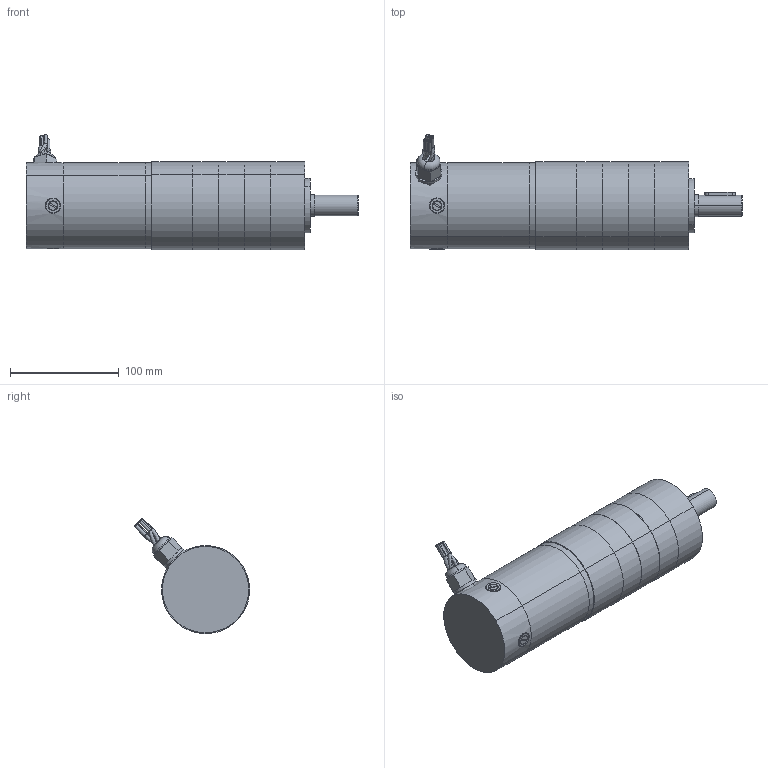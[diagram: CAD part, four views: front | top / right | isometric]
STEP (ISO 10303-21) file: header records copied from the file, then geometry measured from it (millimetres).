
FILE_DESCRIPTION (( 'STEP AP203' ), '1' );
FILE_NAME ('d33455agp3.step', '2018-12-07T19:30:08', ( '' ), ( '' ), 'SwSTEP 2.0', 'SolidWorks 2017', '' );
FILE_SCHEMA (( 'CONFIG_CONTROL_DESIGN' ));
Length unit declared in the file: inch
Products named in the file (1): d33455agp3
Bounding box: 304.95 x 105.69 x 105.69 mm (x, y, z)
Volume: 1337244.7 mm3; surface area: 170764.8 mm2
Topology: 21 solids, 21 shells, 499 faces, 1084 edges, 659 vertices
Faces by surface type: plane 220, cylinder 179, cone 53, torus 31, bspline 8, sphere 8
Entity records: 14576 total; most frequent: CARTESIAN_POINT 3345, DIRECTION 2563, ORIENTED_EDGE 2136, EDGE_CURVE 1068, AXIS2_PLACEMENT_3D 1049, VERTEX_POINT 659, EDGE_LOOP 567, CIRCLE 557
